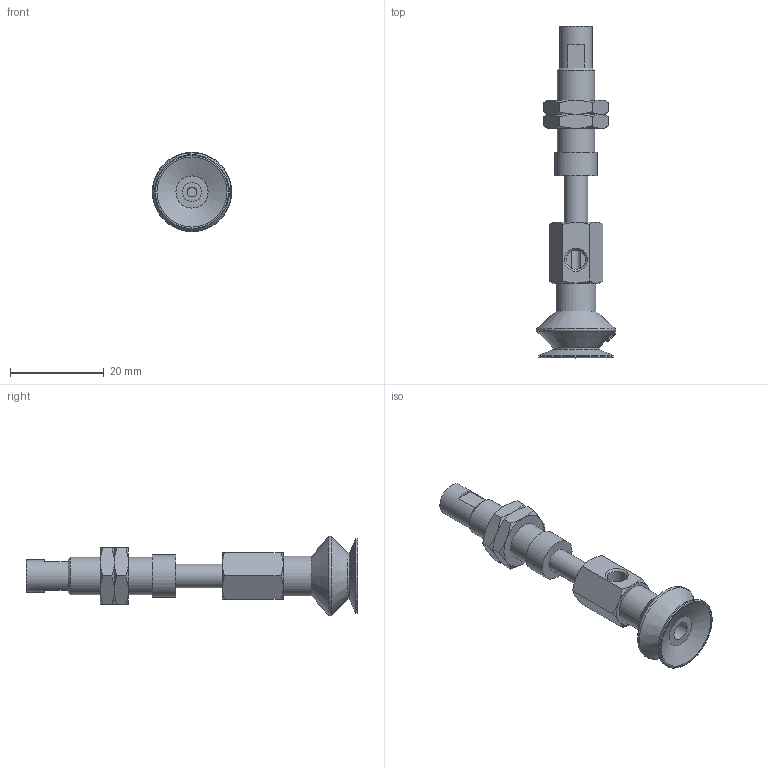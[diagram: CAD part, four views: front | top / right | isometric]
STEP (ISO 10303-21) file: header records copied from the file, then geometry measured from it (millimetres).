
FILE_DESCRIPTION(('STEP AP203'),'1');
FILE_NAME('.stp','2025-04-01T09:01:26',(' '),(' '),'Spatial InterOp 3D',' ',' ');
FILE_SCHEMA(('CONFIG_CONTROL_DESIGN'));
Length unit declared in the file: millimetre
Products named in the file (8): BNABPBYS-15A-10-※; CONNECTOR-15A-10-PB; Nut-15A-S-PB; NAPBTS-15A-10--F; NAPBTS-15A-10--M; BPBG-15A-※; __27; BPBG-15A
Assembly tree (8 placements, depth 3):
  BNABPBYS-15A-10-※
    CONNECTOR-15A-10-PB
    Nut-15A-S-PB  x2
    NAPBTS-15A-10--F
    NAPBTS-15A-10--M
    BPBG-15A-※
      __27
      BPBG-15A
Bounding box: 17 x 71 x 17 mm (x, y, z)
Volume: 4593.2 mm3; surface area: 4964.1 mm2
Topology: 7 solids, 7 shells, 144 faces, 308 edges, 188 vertices
Faces by surface type: cone 55, plane 52, cylinder 18, torus 11, bspline 8
Full cylindrical faces by diameter (mm): 2 x1, 4 x3, 4.134 x2, 5 x3, 6 x2, 7 x1, 7.188 x2, 8 x1, 8.5 x1, 9 x1, 16 x1
Entity records: 4725 total; most frequent: CARTESIAN_POINT 2015, DIRECTION 471, ORIENTED_EDGE 414, AXIS2_PLACEMENT_3D 212, EDGE_CURVE 207, EDGE_LOOP 181, FACE_OUTER_BOUND 149, VERTEX_POINT 148
